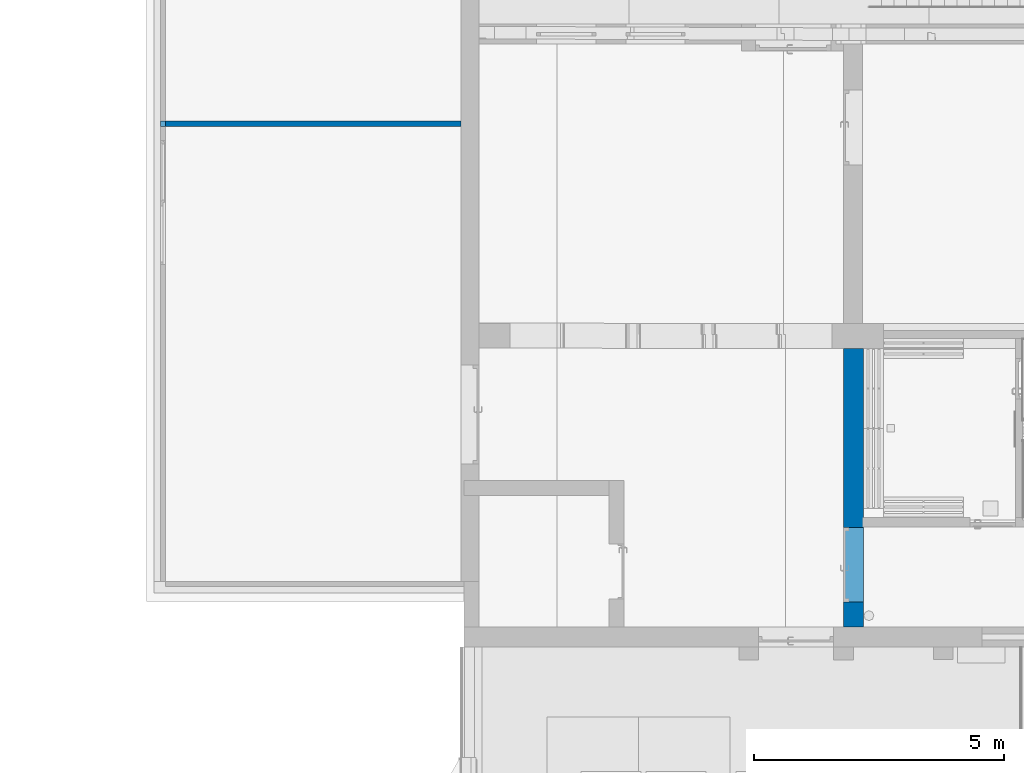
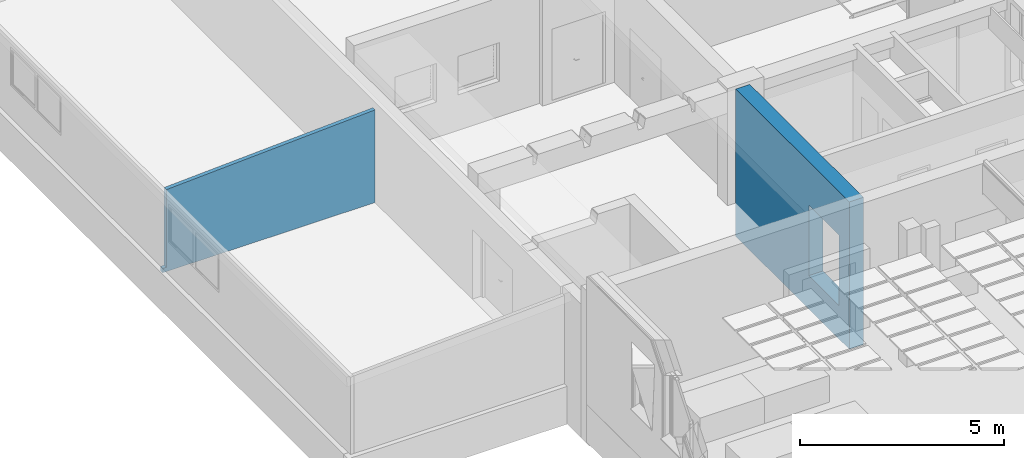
# One storey, part 115 of 301: 2 walls, 2 openings.
"""IFC2X3 building model written with IfcOpenShell, lengths in millimetres."""

from ifc_helpers import new_model, entity, si_unit, converted_unit, derived_unit, money_unit, direction, frame, origin_with_axes, place, context, subcontext, project, spatial, faceted_brep, material, type_object, element, save


model = new_model("IFC2X3")

# Units and contexts
model_context = context("Model", 3, precision=0.01, world=origin_with_axes(), true_north=direction((0.0, 1.0)))
body_context = subcontext(model_context, "Body", "Model", "MODEL_VIEW")
ifc_project = project(units=[si_unit("LENGTHUNIT", "METRE", prefix="MILLI"), si_unit("AREAUNIT", "SQUARE_METRE"), si_unit("VOLUMEUNIT", "CUBIC_METRE"), converted_unit("PLANEANGLEUNIT", "DEGREE", entity("IfcPlaneAngleMeasure", 0.0174532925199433), si_unit("PLANEANGLEUNIT", "RADIAN"), dimensions=[0, 0, 0, 0, 0, 0, 0]), money_unit("EUR"), converted_unit("TIMEUNIT", "Year", entity("IfcTimeMeasure", 31557600.0), si_unit("TIMEUNIT", "SECOND"), dimensions=[0, 0, 1, 0, 0, 0, 0]), si_unit("MASSUNIT", "GRAM", prefix="KILO"), si_unit("THERMODYNAMICTEMPERATUREUNIT", "DEGREE_CELSIUS"), si_unit("LUMINOUSINTENSITYUNIT", "LUMEN"), si_unit("ENERGYUNIT", "JOULE", prefix="MEGA"), derived_unit("THERMALCONDUCTANCEUNIT", [(si_unit("POWERUNIT", "WATT"), 1), (si_unit("LENGTHUNIT", "METRE"), -1), (si_unit("THERMODYNAMICTEMPERATUREUNIT", "KELVIN"), -1)]), derived_unit("SPECIFICHEATCAPACITYUNIT", [(si_unit("ENERGYUNIT", "JOULE"), 1), (si_unit("MASSUNIT", "GRAM", prefix="KILO"), -1), (si_unit("THERMODYNAMICTEMPERATUREUNIT", "KELVIN"), -1)]), derived_unit("MASSDENSITYUNIT", [(si_unit("MASSUNIT", "GRAM", prefix="KILO"), 1), (si_unit("VOLUMEUNIT", "CUBIC_METRE"), -1)])], contexts=[model_context])

# Site, building, storey
site_placement = place(None, frame((0.0, 0.0, 8650.0), z_axis=(0.0, 0.0, 1.0), x_axis=(1.0, 0.0, 0.0)))
site = spatial("IfcSite", under=ifc_project, at=site_placement, Name="43301:001:0844", CompositionType="ELEMENT")
building_placement = place(site_placement, origin_with_axes())
building = spatial("IfcBuilding", under=site, at=building_placement, Name="Kuressaare Ametikooli tuulikute mehaanikute õppekorpus", CompositionType="ELEMENT")
storey_placement = place(building_placement, origin_with_axes())
storey = spatial("IfcBuildingStorey", under=building, at=storey_placement, Name="1.korrus", CompositionType="ELEMENT", Elevation=0.0)

# Wall, openings
ifc_material = material(Name="GENEERILINE - KONSTRUKTRIOON")
wall_type_1 = type_object("IfcWallType", Name="GENEERILINE - KONSTRUKTRIOON 400", PredefinedType="NOTDEFINED")
wall_1_placement = place(storey_placement, frame((95547.90111654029, 25783.06892395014, -1000.0), z_axis=(0.0, 0.0, 1.0), x_axis=(0.0, 1.0, 0.0)))
wall_1 = element("IfcWall", 1, at=wall_1_placement, inside=storey, type_object=wall_type_1, material=ifc_material, context=body_context, shape_type="Brep", body=[
    faceted_brep([(400.0000000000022, -400.0000000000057, 0.0), (5971.776691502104, -400.0000000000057, 0.0), (5971.776691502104, -400.0000000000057, 4410.0), (399.9999999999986, -400.0000000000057, 4410.0), (896.8417358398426, -400.0000000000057, 3070.0), (896.8417358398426, -400.0000000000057, 3110.0), (2386.841735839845, -400.0000000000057, 3110.0), (2386.841735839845, -400.0000000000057, 3070.0), (2386.841735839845, -400.0000000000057, 1000.0), (896.8417358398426, -400.0000000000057, 1000.0), (400.0000000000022, 0.0, 0.0), (5971.776691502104, 0.0, 0.0), (5971.776691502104, 0.0, 4410.0), (399.9999999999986, 0.0, 4410.0), (896.8417358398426, 0.0, 3070.0), (896.8417358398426, 0.0, 3110.0), (2386.841735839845, 0.0, 3110.0), (2386.841735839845, 0.0, 3070.0), (2386.841735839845, 0.0, 1000.0), (896.8417358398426, 0.0, 1000.0)], [[[0, 1, 2, 3], [4, 5, 6, 7, 8, 9]], [[0, 10, 11, 1]], [[11, 12, 2, 1]], [[13, 3, 2, 12]], [[13, 10, 0, 3]], [[5, 4, 14, 15]], [[6, 5, 15, 16]], [[7, 6, 16, 17]], [[7, 17, 18, 8]], [[8, 18, 19, 9]], [[14, 4, 9, 19]], [[13, 12, 11, 10], [15, 14, 19, 18, 17, 16]]]),
])
opening_1_placement = place(wall_1_placement, frame((1641.841735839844, 0.0, 1040.0), z_axis=(0.0, 0.0, 1.0), x_axis=(1.0, 0.0, 0.0)))
element("IfcOpeningElement", 2, at=opening_1_placement, cuts=wall_1, Name="ava", context=body_context, shape_type="Brep", body=[
    faceted_brep([(-745.000000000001, 0.0, 2070.0), (745.000000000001, 0.0, 2070.0), (745.000000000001, 1.000000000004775, 2070.0), (-745.000000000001, 1.000000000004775, 2070.0), (-745.000000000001, -401.0000000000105, 2070.0), (745.000000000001, -401.0000000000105, 2070.0), (745.000000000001, 0.0, 0.0), (745.000000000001, 1.000000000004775, 0.0), (-745.000000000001, 1.000000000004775, 0.0), (-745.000000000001, 0.0, 0.0), (-745.000000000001, -401.0000000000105, 0.0), (745.000000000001, -401.0000000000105, 0.0)], [[[0, 1, 2, 3]], [[1, 0, 4, 5]], [[1, 6, 7, 2]], [[7, 8, 3, 2]], [[9, 0, 3, 8]], [[0, 9, 10, 4]], [[4, 10, 11, 5]], [[6, 1, 5, 11]], [[6, 9, 8, 7]], [[9, 6, 11, 10]]]),
])
opening_2_placement = place(wall_1_placement, frame((1641.841735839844, 0.0, 1000.0), z_axis=(0.0, 0.0, 1.0), x_axis=(1.0, 0.0, 0.0)))
element("IfcOpeningElement", 3, at=opening_2_placement, cuts=wall_1, Name="TU10+5,EI60", context=body_context, shape_type="Brep", body=[
    faceted_brep([(-745.000000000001, -401.0000000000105, 2070.0), (-745.000000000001, -401.0000000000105, 0.0), (745.000000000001, -401.0000000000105, 0.0), (745.000000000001, -401.0000000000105, 2070.0), (-745.000000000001, 1.000000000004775, 2070.0), (-745.000000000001, 1.000000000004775, 0.0), (745.000000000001, 1.000000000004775, 0.0), (745.000000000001, 1.000000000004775, 2070.0)], [[[0, 1, 2, 3]], [[4, 5, 1, 0]], [[5, 6, 2, 1]], [[6, 7, 3, 2]], [[7, 4, 0, 3]], [[6, 5, 4, 7]]]),
])

# Wall
wall_type_2 = type_object("IfcWallType", Name="GENEERILINE - KONSTRUKTRIOON 110", PredefinedType="NOTDEFINED")
wall_2_placement = place(storey_placement, frame((87898.75644683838, 36300.50281685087, 0.0), z_axis=(0.0, 0.0, 1.0), x_axis=(-1.0, 0.0, 0.0)))
element("IfcWall", 4, at=wall_2_placement, inside=storey, type_object=wall_type_2, material=ifc_material, context=body_context, shape_type="Brep", body=[
    faceted_brep([(5906.91765785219, 0.0, 2452.787507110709), (0.0, 0.0, 2772.691186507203), (0.0, 0.0, 0.0), (6006.917657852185, 0.0, 0.0), (6006.917657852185, 0.0, 129.9999999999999), (5906.91765785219, 0.0, 129.9999999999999), (0.0, 109.9999999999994, 2772.663138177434), (5906.91765785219, 109.9999999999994, 2452.759458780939), (0.0, 109.9999999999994, 0.0), (6006.917657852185, 109.9999999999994, 0.0), (6006.917657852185, 110.0000000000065, 129.9999999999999), (5906.91765785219, 109.9999999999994, 129.9999999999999)], [[[0, 1, 2, 3, 4, 5]], [[6, 1, 0, 7]], [[1, 6, 8, 2]], [[9, 3, 2, 8]], [[3, 9, 10, 4]], [[10, 11, 5, 4]], [[7, 0, 5, 11]], [[6, 7, 11, 10, 9, 8]]]),
])

save(model, "model.ifc")
